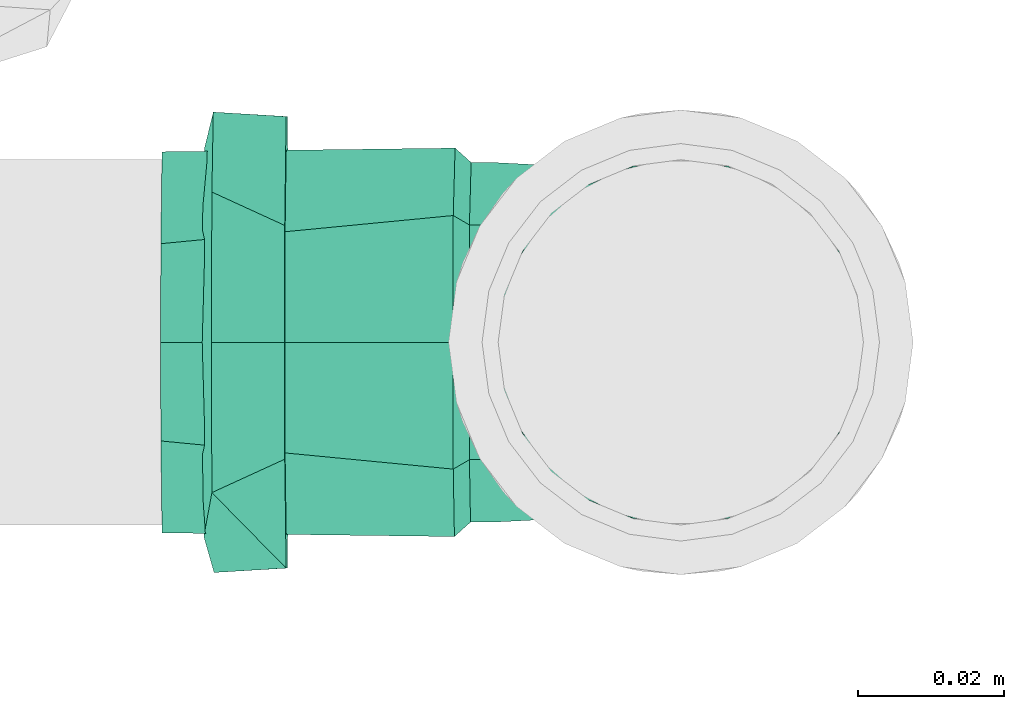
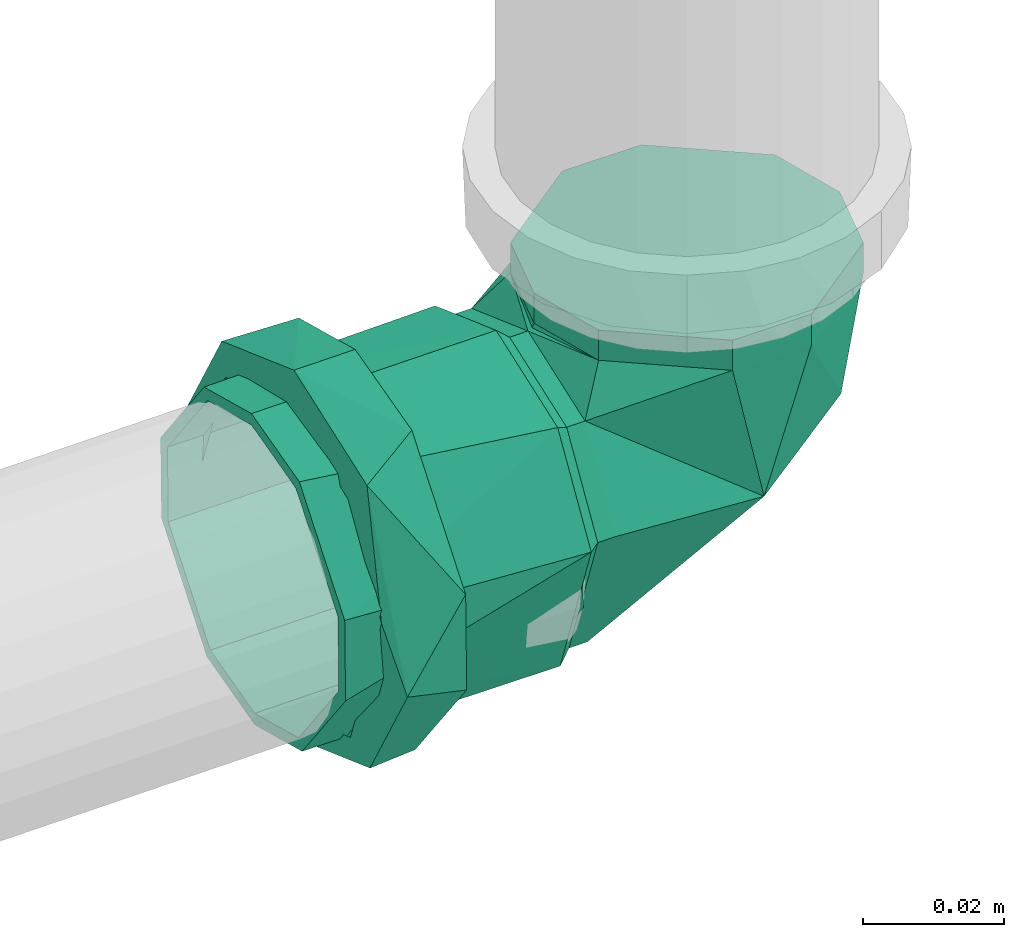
# One storey, part 140 of 589: 1 flow fitting.
"""IFC2X3 building model written with IfcOpenShell, lengths in millimetres."""

import ifcopenshell
import ifcopenshell.guid

model = None  # the IFC model being written
_history = None  # IfcOwnerHistory: only IFC2X3 demands one
_inside = {}  # id of a spatial element -> (the spatial element, [elements in it])
_under = {}  # id of a project, library or spatial element -> (it, [spatial elements below it])
_declared = {}  # id of a project -> (the project, [libraries it declares])
_typed = {}  # id of a type object -> (the type object, [elements of that type])
_made_of = {}  # id of a material, layer set ... -> (it, [elements and type objects made of it])


def new_model(schema):
    """Start an empty IFC model of exactly this schema.

    Asked for "IFC4X3", IfcOpenShell would pick the latest addendum, in which some entities
    have other attributes; the version numbers below select the first issue.
    IFC2X3 requires an IfcOwnerHistory on every rooted entity: one is made here for all.
    """
    global model, _history
    if schema == "IFC4X3":
        model = ifcopenshell.file(schema_version=(4, 3, 0, 0))
    else:
        model = ifcopenshell.file(schema=schema)
    _inside.clear()
    _under.clear()
    _declared.clear()
    _typed.clear()
    _made_of.clear()
    _history = None
    if model.schema == "IFC2X3":
        org = make("IfcOrganization", Name="unknown")
        user = make(
            "IfcPersonAndOrganization",
            ThePerson=make("IfcPerson", FamilyName="unknown"),
            TheOrganization=org,
        )
        app = make(
            "IfcApplication",
            ApplicationDeveloper=org,
            Version="unknown",
            ApplicationFullName="unknown",
            ApplicationIdentifier="unknown",
        )
        _history = make(
            "IfcOwnerHistory",
            OwningUser=user,
            OwningApplication=app,
            ChangeAction="ADDED",
            CreationDate=0,
        )
    return model


def make(cls, **values):
    """One entity of the class cls with the attributes given. An attribute that is None is left unset."""
    return model.create_entity(
        cls, **{name: value for name, value in values.items() if value is not None}
    )


def entity(cls, *values):
    """Any entity or typed value of the class cls, its attributes in the order of the schema. None: left unset."""
    e = model.create_entity(cls)
    for i, value in enumerate(values):
        if value is not None:
            e[i] = value
    return e


def rooted(cls, **values):
    """An entity with a GlobalId (a new one), such as an element, a storey or a relation."""
    return make(cls, GlobalId=ifcopenshell.guid.new(), OwnerHistory=_history, **values)


def si_unit(unit_type, name, prefix=None):
    """IfcSIUnit, for example si_unit("LENGTHUNIT", "METRE", prefix="MILLI")."""
    return make("IfcSIUnit", UnitType=unit_type, Prefix=prefix, Name=name)


def converted_unit(unit_type, name, factor, base, dimensions=None, offset=None):
    """IfcConversionBasedUnit, such as the inch: factor (a typed value) times the base unit."""
    return make(
        "IfcConversionBasedUnit"
        if offset is None
        else "IfcConversionBasedUnitWithOffset",
        ConversionOffset=offset,
        Dimensions=None
        if dimensions is None
        else entity("IfcDimensionalExponents", *dimensions),
        UnitType=unit_type,
        Name=name,
        ConversionFactor=make(
            "IfcMeasureWithUnit", ValueComponent=factor, UnitComponent=base
        ),
    )


def derived_unit(unit_type, elements):
    """IfcDerivedUnit: a product of units, each with its exponent."""
    return make(
        "IfcDerivedUnit",
        Elements=[
            make("IfcDerivedUnitElement", Unit=unit, Exponent=power)
            for unit, power in elements
        ],
        UnitType=unit_type,
    )


def assignment(units):
    """IfcUnitAssignment: the units of a project."""
    return None if units is None else make("IfcUnitAssignment", Units=units)


def point(xyz):
    """IfcCartesianPoint."""
    return None if xyz is None else make("IfcCartesianPoint", Coordinates=xyz)


def direction(xyz):
    """IfcDirection."""
    return None if xyz is None else make("IfcDirection", DirectionRatios=xyz)


def frame(location, z_axis=None, x_axis=None):
    """IfcAxis2Placement3D, a coordinate frame: its origin and axes. An axis left out is left unset."""
    return make(
        "IfcAxis2Placement3D",
        Location=point(location),
        Axis=direction(z_axis),
        RefDirection=direction(x_axis),
    )


def origin():
    """The frame at (0, 0, 0) with its axes left unset."""
    return frame((0.0, 0.0, 0.0))


def place(relative_to, where):
    """IfcLocalPlacement: puts the frame where relative to a parent placement (None: the world)."""
    return make(
        "IfcLocalPlacement", PlacementRelTo=relative_to, RelativePlacement=where
    )


def context(
    kind, dimensions, precision=None, world=None, true_north=None, identifier=None
):
    """IfcGeometricRepresentationContext, for example the 3D "Model" context."""
    return make(
        "IfcGeometricRepresentationContext",
        ContextIdentifier=identifier,
        ContextType=kind,
        CoordinateSpaceDimension=dimensions,
        Precision=precision,
        WorldCoordinateSystem=world,
        TrueNorth=true_north,
    )


def subcontext(parent, identifier, kind, view, scale=None):
    """IfcGeometricRepresentationSubContext, for example "Body" below "Model"."""
    return make(
        "IfcGeometricRepresentationSubContext",
        ContextIdentifier=identifier,
        ContextType=kind,
        ParentContext=parent,
        TargetScale=scale,
        TargetView=view,
    )


def project(units=None, contexts=None):
    """IfcProject with its units and contexts."""
    return rooted(
        "IfcProject",
        Name="project",
        RepresentationContexts=contexts,
        UnitsInContext=assignment(units),
    )


def spatial(cls, under=None, at=None, **own):
    """A site, building, storey or space (cls), placed at a placement, below another one or the project."""
    s = rooted(cls, ObjectPlacement=at, **own)
    if under is not None:
        _under.setdefault(under.id(), (under, []))[1].append(s)
    return s


def faces_of(points, faces, orient=None, outer=None):
    """IfcFace entities. A face is a list of loops; a loop is a list of indices into points, from 0.

    orient and outer hold one flag for each loop. By default every Orientation is true, the
    first loop of a face is its IfcFaceOuterBound and the others are IfcFaceBound.
    """
    made = []
    for i, loops in enumerate(faces):
        bounds = []
        for j, loop in enumerate(loops):
            is_outer = j == 0 if outer is None else outer[i][j]
            bounds.append(
                make(
                    "IfcFaceOuterBound" if is_outer else "IfcFaceBound",
                    Bound=make("IfcPolyLoop", Polygon=[points[k] for k in loop]),
                    Orientation=True if orient is None else orient[i][j],
                )
            )
        made.append(make("IfcFace", Bounds=bounds))
    return made


def faceted_brep(points, faces, orient=None, outer=None, voids=None):
    """IfcFacetedBrep: a solid bounded by flat faces; with voids (closed shells), ...WithVoids."""
    shared = [point(p) for p in points]
    hull = make("IfcClosedShell", CfsFaces=faces_of(shared, faces, orient, outer))
    if voids is None:
        return make("IfcFacetedBrep", Outer=hull)
    return make(
        "IfcFacetedBrepWithVoids",
        Outer=hull,
        Voids=[
            make(cls, CfsFaces=faces_of(shared, fs, o, b)) for cls, fs, o, b in voids
        ],
    )


def shape(context_of_items, identifier, shape_type, items):
    """IfcShapeRepresentation: the items that make up one representation, for example the "Body"."""
    return make(
        "IfcShapeRepresentation",
        ContextOfItems=context_of_items,
        RepresentationIdentifier=identifier,
        RepresentationType=shape_type,
        Items=items,
    )


def source(mapping_origin, context_of_items, identifier, shape_type, items):
    """IfcRepresentationMap: a shape defined once, which mapped items show again and again."""
    return make(
        "IfcRepresentationMap",
        MappingOrigin=mapping_origin,
        MappedRepresentation=shape(context_of_items, identifier, shape_type, items),
    )


def transform(
    local_origin,
    x_axis=None,
    y_axis=None,
    z_axis=None,
    scale=None,
    scale2=None,
    scale3=None,
    uniform=True,
):
    """IfcCartesianTransformationOperator3D, or its non-uniform kind. x_axis, y_axis, z_axis: its Axis1, 2, 3."""
    if uniform:
        return make(
            "IfcCartesianTransformationOperator3D",
            Axis1=direction(x_axis),
            Axis2=direction(y_axis),
            LocalOrigin=point(local_origin),
            Scale=scale,
            Axis3=direction(z_axis),
        )
    return make(
        "IfcCartesianTransformationOperator3DnonUniform",
        Axis1=direction(x_axis),
        Axis2=direction(y_axis),
        LocalOrigin=point(local_origin),
        Scale=scale,
        Axis3=direction(z_axis),
        Scale2=scale2,
        Scale3=scale3,
    )


def mapped(mapping_source, mapping_target):
    """IfcMappedItem: shows the shape of a source again, moved by a transform."""
    return make(
        "IfcMappedItem", MappingSource=mapping_source, MappingTarget=mapping_target
    )


def material(Name=None, Category=None):
    """IfcMaterial."""
    return make("IfcMaterial", Name=Name, Category=Category)


def made_of(thing, what):
    """Note that an element or type object is made of a material, layer set ...; save() writes the relation."""
    if what is not None:
        _made_of.setdefault(what.id(), (what, []))[1].append(thing)
    return thing


def type_object(cls, material=None, **own):
    """A type object (cls), such as IfcWallType, which elements share."""
    return made_of(rooted(cls, **own), material)


def type_shapes(of_type, sources):
    """Give a type object the sources (RepresentationMaps) that its elements show as mapped items."""
    of_type.RepresentationMaps = sources


def element(
    cls,
    number,
    at=None,
    inside=None,
    cuts=None,
    type_object=None,
    material=None,
    context=None,
    identifier="Body",
    shape_type=None,
    held_by="IfcProductDefinitionShape",
    body=None,
    shapes=None,
    **own,
):
    """One element of the class cls, such as IfcWall. Its Tag is "e" and its number.

    at: its placement. inside: the storey or other place that contains it. cuts: it is an
    opening in that element (IfcRelVoidsElement). A single representation is given by context,
    identifier, shape_type and body (its items); several are given by shapes. held_by: the class
    of the entity that holds the representations. save() writes the other relations.
    """
    e = rooted(cls, Tag="e%d" % number, ObjectPlacement=at, **own)
    if body is not None:
        shapes = [shape(context, identifier, shape_type, body)]
    if shapes is not None:
        e.Representation = make(held_by, Representations=shapes)
    if inside is not None:
        _inside.setdefault(inside.id(), (inside, []))[1].append(e)
    if cuts is not None:
        rooted(
            "IfcRelVoidsElement", RelatingBuildingElement=cuts, RelatedOpeningElement=e
        )
    if type_object is not None:
        _typed.setdefault(type_object.id(), (type_object, []))[1].append(e)
    return made_of(e, material)


def aggregate(whole, parts):
    """IfcRelAggregates: a whole, such as a stair, and the parts it consists of."""
    return rooted("IfcRelAggregates", RelatingObject=whole, RelatedObjects=parts)


def save(model, path):
    """Write the relations noted so far, then the file.

    IfcRelAggregates (storeys below a building ...), IfcRelContainedInSpatialStructure (elements
    in a storey), IfcRelDefinesByType, IfcRelAssociatesMaterial and IfcRelDeclares: one each for
    every whole, place, type object, material and project.
    """
    for whole, parts in _under.values():
        aggregate(whole, parts)
    for where, things in _inside.values():
        rooted(
            "IfcRelContainedInSpatialStructure",
            RelatedElements=things,
            RelatingStructure=where,
        )
    for kind, things in _typed.values():
        rooted("IfcRelDefinesByType", RelatedObjects=things, RelatingType=kind)
    for what, things in _made_of.values():
        rooted("IfcRelAssociatesMaterial", RelatedObjects=things, RelatingMaterial=what)
    for by, libraries in _declared.values():
        rooted("IfcRelDeclares", RelatingContext=by, RelatedDefinitions=libraries)
    model.write(path)


model = new_model("IFC2X3")

# Units and contexts
model_context = context("Model", 3, precision=0.01, world=origin(), true_north=direction((6.123031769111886e-17, 1.0)))
body_context = subcontext(model_context, "Body", "Model", "MODEL_VIEW")
ifc_project = project(units=[si_unit("LENGTHUNIT", "METRE", prefix="MILLI"), si_unit("AREAUNIT", "SQUARE_METRE"), si_unit("VOLUMEUNIT", "CUBIC_METRE"), converted_unit("PLANEANGLEUNIT", "DEGREE", entity("IfcRatioMeasure", 0.017453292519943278), si_unit("PLANEANGLEUNIT", "RADIAN"), dimensions=[0, 0, 0, 0, 0, 0, 0]), si_unit("MASSUNIT", "GRAM", prefix="KILO"), derived_unit("MASSDENSITYUNIT", [(si_unit("MASSUNIT", "GRAM", prefix="KILO"), 1), (si_unit("LENGTHUNIT", "METRE"), -3)]), derived_unit("IONCONCENTRATIONUNIT", [(si_unit("MASSUNIT", "GRAM", prefix="KILO"), 1), (si_unit("LENGTHUNIT", "METRE"), -3)]), derived_unit("MOMENTOFINERTIAUNIT", [(si_unit("LENGTHUNIT", "METRE"), 4)]), si_unit("TIMEUNIT", "SECOND"), si_unit("FREQUENCYUNIT", "HERTZ"), si_unit("THERMODYNAMICTEMPERATUREUNIT", "DEGREE_CELSIUS"), derived_unit("THERMALTRANSMITTANCEUNIT", [(si_unit("MASSUNIT", "GRAM", prefix="KILO"), 1), (si_unit("THERMODYNAMICTEMPERATUREUNIT", "KELVIN"), -1), (si_unit("TIMEUNIT", "SECOND"), -3)]), derived_unit("THERMALCONDUCTANCEUNIT", [(si_unit("MASSUNIT", "GRAM", prefix="KILO"), 1), (si_unit("THERMODYNAMICTEMPERATUREUNIT", "KELVIN"), -1), (si_unit("TIMEUNIT", "SECOND"), -3), (si_unit("LENGTHUNIT", "METRE"), 1)]), derived_unit("VOLUMETRICFLOWRATEUNIT", [(si_unit("LENGTHUNIT", "METRE"), 3), (si_unit("TIMEUNIT", "SECOND"), -1)]), derived_unit("MASSFLOWRATEUNIT", [(si_unit("MASSUNIT", "GRAM", prefix="KILO"), 1), (si_unit("TIMEUNIT", "SECOND"), -1)]), derived_unit("ROTATIONALFREQUENCYUNIT", [(si_unit("TIMEUNIT", "SECOND"), -1)]), si_unit("ELECTRICCURRENTUNIT", "AMPERE"), si_unit("ELECTRICVOLTAGEUNIT", "VOLT"), si_unit("POWERUNIT", "WATT"), si_unit("FORCEUNIT", "NEWTON", prefix="KILO"), si_unit("ILLUMINANCEUNIT", "LUX"), si_unit("LUMINOUSFLUXUNIT", "LUMEN"), si_unit("LUMINOUSINTENSITYUNIT", "CANDELA"), derived_unit("USERDEFINED", [(si_unit("MASSUNIT", "GRAM", prefix="KILO"), -1), (si_unit("LENGTHUNIT", "METRE"), -2), (si_unit("TIMEUNIT", "SECOND"), 3), (si_unit("LUMINOUSFLUXUNIT", "LUMEN"), 1)]), derived_unit("USERDEFINED", [(si_unit("MASSUNIT", "GRAM", prefix="KILO"), 1), (si_unit("TIMEUNIT", "SECOND"), -3), (si_unit("LENGTHUNIT", "METRE"), 3), (si_unit("ELECTRICCURRENTUNIT", "AMPERE"), -2)]), derived_unit("SOUNDPOWERUNIT", [(si_unit("MASSUNIT", "GRAM", prefix="KILO"), 1), (si_unit("TIMEUNIT", "SECOND"), -3), (si_unit("LENGTHUNIT", "METRE"), 2)]), derived_unit("SOUNDPRESSUREUNIT", [(si_unit("MASSUNIT", "GRAM", prefix="KILO"), 1), (si_unit("LENGTHUNIT", "METRE"), -1), (si_unit("TIMEUNIT", "SECOND"), -2)]), derived_unit("LINEARVELOCITYUNIT", [(si_unit("LENGTHUNIT", "METRE"), 1), (si_unit("TIMEUNIT", "SECOND"), -1)]), si_unit("PRESSUREUNIT", "PASCAL"), derived_unit("USERDEFINED", [(si_unit("MASSUNIT", "GRAM", prefix="KILO"), 1), (si_unit("LENGTHUNIT", "METRE"), -2), (si_unit("TIMEUNIT", "SECOND"), -2)]), derived_unit("LINEARFORCEUNIT", [(si_unit("MASSUNIT", "GRAM", prefix="KILO"), 1), (si_unit("TIMEUNIT", "SECOND"), -2)]), derived_unit("PLANARFORCEUNIT", [(si_unit("MASSUNIT", "GRAM", prefix="KILO"), 1), (si_unit("LENGTHUNIT", "METRE"), -1), (si_unit("TIMEUNIT", "SECOND"), -2)]), derived_unit("SPECIFICHEATCAPACITYUNIT", [(si_unit("THERMODYNAMICTEMPERATUREUNIT", "KELVIN"), -1), (si_unit("LENGTHUNIT", "METRE"), 2), (si_unit("TIMEUNIT", "SECOND"), -2)]), derived_unit("HEATINGVALUEUNIT", [(si_unit("LENGTHUNIT", "METRE"), 2), (si_unit("TIMEUNIT", "SECOND"), -2)]), derived_unit("VAPORPERMEABILITYUNIT", [(si_unit("LENGTHUNIT", "METRE"), -1), (si_unit("TIMEUNIT", "SECOND"), 1)]), derived_unit("DYNAMICVISCOSITYUNIT", [(si_unit("MASSUNIT", "GRAM", prefix="KILO"), 1), (si_unit("TIMEUNIT", "SECOND"), -1), (si_unit("LENGTHUNIT", "METRE"), -1)]), derived_unit("THERMALEXPANSIONCOEFFICIENTUNIT", [(si_unit("THERMODYNAMICTEMPERATUREUNIT", "KELVIN"), -1)]), derived_unit("MODULUSOFELASTICITYUNIT", [(si_unit("MASSUNIT", "GRAM", prefix="KILO"), 1), (si_unit("LENGTHUNIT", "METRE"), -1), (si_unit("TIMEUNIT", "SECOND"), -2)]), derived_unit("ISOTHERMALMOISTURECAPACITYUNIT", [(si_unit("LENGTHUNIT", "METRE"), 3), (si_unit("MASSUNIT", "GRAM", prefix="KILO"), -1)]), derived_unit("MOISTUREDIFFUSIVITYUNIT", [(si_unit("TIMEUNIT", "SECOND"), -1), (si_unit("LENGTHUNIT", "METRE"), 2)])], contexts=[model_context])

# Site, building, storey
site_placement = place(None, origin())
site = spatial("IfcSite", under=ifc_project, at=site_placement, Name="Default", CompositionType="ELEMENT")
building_placement = place(site_placement, origin())
building = spatial("IfcBuilding", under=site, at=building_placement, CompositionType="ELEMENT")
storey_placement = place(building_placement, frame((0.0, 0.0, 100.0)))
storey = spatial("IfcBuildingStorey", under=building, at=storey_placement, Name="TÉRREO", CompositionType="ELEMENT", Elevation=100.0)

# Flow fitting
ifc_material = material(Name="PVC Série Normal")
pipe_fitting_type = type_object("IfcPipeFittingType", Name="PVC Esgoto_Joelho 45_90_Rodrigo MEP:a. Série Normal", PredefinedType="NOTDEFINED", material=ifc_material)
shared_shape = source(origin(), body_context, "Body", "Brep", [
    faceted_brep([(-6.212752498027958, 25.804714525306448, 24.14814565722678), (-21.392152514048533, 25.95650852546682, 12.500000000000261), (-24.741349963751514, 25.990000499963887, 0.0), (-21.392152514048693, 25.956508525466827, -12.499999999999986), (-6.21275249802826, 25.804714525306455, -24.1481456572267), (6.727552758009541, 25.675311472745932, -24.14814565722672), (21.906952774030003, 25.52351747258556, -12.500000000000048), (25.256150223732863, 25.490025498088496, 0.0), (21.906952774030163, 25.52351747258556, 12.499999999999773), (6.7275527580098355, 25.675311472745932, 24.148145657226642), (25.308147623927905, 30.689765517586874, 0.0), (21.958950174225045, 30.72325749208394, -12.500000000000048), (6.779550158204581, 30.87505149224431, -24.14814565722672), (-6.160755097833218, 31.004454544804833, -24.1481456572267), (-21.34015511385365, 31.156248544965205, -12.499999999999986), (-24.689352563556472, 31.18974051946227, 0.0), (-21.340155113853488, 31.1562485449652, 12.500000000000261), (-6.160755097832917, 31.00445454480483, 24.14814565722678), (6.779550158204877, 30.87505149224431, 24.148145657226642), (21.958950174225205, 30.72325749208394, 12.499999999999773)], [[[0, 1, 2, 3, 4, 5, 6, 7, 8, 9]], [[10, 11, 12, 13, 14, 15, 16, 17, 18, 19]], [[7, 10, 19, 8]], [[8, 19, 18, 9]], [[18, 17, 0, 9]], [[0, 17, 16, 1]], [[1, 16, 15, 2]], [[2, 15, 14, 3]], [[3, 14, 13, 4]], [[13, 12, 5, 4]], [[5, 12, 11, 6]], [[6, 11, 10, 7]]]),
    faceted_brep([(-70.94129996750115, -6.988114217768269, -26.07999730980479), (-70.94129996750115, -6.47047612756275, -24.14814565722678), (-70.94129996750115, 6.4704761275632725, -24.148145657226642), (-70.94129996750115, -23.382685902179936, -13.499999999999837), (-70.94129996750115, 6.988114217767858, -26.0799973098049), (-70.94129996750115, -21.650635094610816, -12.500000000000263), (-70.94129996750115, -25.0, 0.0), (-70.94129996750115, -27.0, 0.0), (-70.94129996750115, -21.650635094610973, 12.499999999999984), (-70.94129996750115, -23.382685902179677, 13.500000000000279), (-70.94129996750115, -6.470476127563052, 24.1481456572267), (-70.94129996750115, -6.98811421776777, 26.079997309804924), (-70.94129996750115, 6.470476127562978, 24.14814565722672), (-70.94129996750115, 6.988114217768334, 26.07999730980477), (-70.94129996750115, 21.650635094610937, 12.500000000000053), (-70.94129996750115, 23.38268590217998, 13.499999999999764), (-70.94129996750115, 27.0, 0.0), (-70.94129996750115, 25.0, 0.0), (-70.94129996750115, 23.382685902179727, -13.500000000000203), (-70.94129996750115, 21.6506350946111, -12.499999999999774), (-30.94129996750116, 21.650635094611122, -12.499999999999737), (-30.94129996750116, 25.0, 0.0), (-30.94129996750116, 6.4704761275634, -24.148145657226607), (-30.94129996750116, -6.470476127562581, -24.148145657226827), (-30.94129996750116, -21.650635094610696, -12.500000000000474), (-30.94129996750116, -25.0, 0.0), (-30.94129996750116, -21.65063509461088, 12.500000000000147), (-30.94129996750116, -6.470476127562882, 24.14814565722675), (-30.94129996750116, 6.470476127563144, 24.148145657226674), (-30.94129996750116, 21.650635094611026, 12.499999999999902), (-30.94129996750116, 27.0, 0.0), (-30.941299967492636, 20.682232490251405, 17.356418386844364), (-30.94129996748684, 4.685536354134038, 26.59033187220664), (-30.94129996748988, -20.686585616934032, 17.35122979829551), (-30.94129996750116, -27.0, 0.0), (-30.941299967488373, -8.000524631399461, 21.970780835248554), (-30.94129996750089, -20.686585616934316, -17.35122979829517), (-30.9412999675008, -4.6922062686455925, -26.589155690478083), (-30.94129996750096, 20.682232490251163, -17.356418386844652), (-30.94129996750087, 7.995013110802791, -21.97278703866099), (-28.74129996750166, -4.338459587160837, -24.62067765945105), (-28.741299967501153, 25.0, 0.0), (-28.741299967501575, 19.154245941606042, -16.065953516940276), (-28.741299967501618, 7.407893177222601, -20.34331558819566), (-28.741299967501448, -19.15021526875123, -16.070757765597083), (-28.741299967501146, -25.0, 0.0), (-28.741299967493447, -19.150215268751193, 16.07075776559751), (-28.741299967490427, -7.402789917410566, 20.345173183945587), (-28.74129996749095, 19.15424594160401, 16.065953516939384), (-28.741299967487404, 4.344635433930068, 24.619588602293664), (-25.741299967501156, 25.0, 0.0), (-25.741299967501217, 19.151286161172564, 16.069481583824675), (-25.741299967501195, 4.341396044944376, 24.62016003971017), (-25.741299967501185, -7.404832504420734, 20.344954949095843), (-25.741299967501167, -19.15106105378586, 16.069749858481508), (-25.741299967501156, -25.0, 0.0), (-25.741299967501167, -19.15106105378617, -16.069749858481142), (-25.741299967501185, -4.341051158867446, -24.62022085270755), (-25.741299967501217, 19.15128616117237, -16.069481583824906), (-25.7412999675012, 7.405117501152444, -20.344851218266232), (-6.212752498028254, 25.80471452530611, -24.1481456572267), (-21.39215251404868, 25.95650852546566, -12.499999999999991), (-24.74134996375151, 25.990000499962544, 0.0), (-21.3921525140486, 25.956508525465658, 12.500000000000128), (-6.2127524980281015, 25.80471452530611, 24.14814565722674), (6.7275527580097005, 25.67531147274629, 24.148145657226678), (21.906952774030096, 25.52351747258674, 12.499999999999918), (25.256150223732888, 25.490025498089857, 0.0), (21.90695277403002, 25.523517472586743, -12.500000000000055), (6.727552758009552, 25.67531147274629, -24.14814565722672), (-0.83580225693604, 1.5246716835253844, 23.354962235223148), (-3.2027279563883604, -15.730161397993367, 0.0), (10.140389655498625, -10.242300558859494, 0.0), (16.135012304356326, 8.632944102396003, 15.848254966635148), (-25.03773742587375, 25.289366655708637, 0.0), (15.761400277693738, 3.0452732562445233, 0.0), (16.135011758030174, 8.632944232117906, -15.848255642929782), (-0.8751695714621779, 1.433288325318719, -23.341145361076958)], [[[0, 1, 2]], [[1, 0, 3]], [[2, 4, 0]], [[3, 5, 1]], [[3, 6, 5]], [[6, 3, 7]], [[8, 6, 7]], [[8, 7, 9]], [[9, 10, 8]], [[9, 11, 10]], [[10, 11, 12]], [[13, 12, 11]], [[13, 14, 12]], [[14, 13, 15]], [[16, 14, 15]], [[17, 14, 16]], [[18, 17, 16]], [[18, 19, 17]], [[19, 18, 4]], [[4, 2, 19]], [[20, 21, 17, 19]], [[22, 20, 19, 2]], [[2, 1, 23, 22]], [[24, 23, 1, 5]], [[25, 24, 5, 6]], [[26, 25, 6, 8]], [[27, 26, 8, 10]], [[10, 12, 28, 27]], [[29, 28, 12, 14]], [[21, 29, 14, 17]], [[16, 15, 30]], [[15, 31, 30]], [[31, 15, 13]], [[31, 13, 32]], [[33, 11, 9]], [[34, 9, 7]], [[11, 33, 35, 32]], [[33, 9, 34]], [[11, 32, 13]], [[7, 3, 34]], [[3, 36, 34]], [[36, 3, 0]], [[36, 0, 37]], [[38, 4, 18]], [[30, 18, 16]], [[4, 38, 39, 37]], [[38, 18, 30]], [[4, 37, 0]], [[28, 29, 21, 20, 22, 23, 24, 25, 26, 27]], [[39, 40, 37]], [[41, 42, 30]], [[30, 42, 38]], [[38, 43, 39]], [[44, 45, 36]], [[38, 42, 43]], [[36, 37, 44]], [[34, 36, 45]], [[40, 39, 43]], [[44, 37, 40]], [[45, 46, 33]], [[33, 34, 45]], [[46, 35, 33]], [[46, 47, 35]], [[47, 32, 35]], [[48, 41, 30]], [[48, 31, 49]], [[31, 48, 30]], [[32, 47, 49]], [[49, 31, 32]], [[41, 48, 50]], [[48, 51, 50]], [[51, 48, 49]], [[51, 49, 52]], [[52, 47, 53]], [[46, 54, 53]], [[46, 45, 54]], [[49, 47, 52]], [[54, 45, 55]], [[47, 46, 53]], [[45, 44, 56]], [[45, 56, 55]], [[56, 44, 57]], [[58, 59, 43]], [[44, 40, 57]], [[40, 59, 57]], [[58, 43, 42]], [[42, 50, 58]], [[50, 42, 41]], [[59, 40, 43]], [[60, 61, 62, 63, 64, 65, 66, 67, 68, 69]], [[52, 70, 51]], [[54, 71, 70]], [[70, 52, 53, 54]], [[72, 73, 70]], [[50, 63, 74]], [[51, 63, 50]], [[54, 55, 71]], [[72, 70, 71]], [[75, 67, 66]], [[65, 70, 73]], [[73, 75, 66]], [[74, 63, 62]], [[73, 66, 65]], [[63, 51, 64]], [[70, 64, 51]], [[73, 72, 75]], [[65, 64, 70]], [[72, 76, 75]], [[71, 55, 56]], [[77, 58, 60]], [[77, 57, 59, 58]], [[77, 71, 56]], [[56, 57, 77]], [[77, 69, 76]], [[58, 50, 61]], [[74, 62, 61]], [[71, 77, 72]], [[61, 60, 58]], [[68, 75, 76]], [[68, 67, 75]], [[72, 77, 76]], [[76, 69, 68]], [[60, 69, 77]], [[61, 50, 74]]]),
    faceted_brep([(-53.94129996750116, 6.9881142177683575, -26.07999730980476), (-53.94129996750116, -6.988114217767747, -26.079997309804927), (-53.94129996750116, -8.282209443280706, -30.909626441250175), (-53.94129996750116, 8.28220944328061, -30.9096264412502), (-53.94129996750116, 23.38268590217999, -13.499999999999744), (-53.94129996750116, -27.712812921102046, -16.0), (-53.94129996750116, -23.38268590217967, -13.500000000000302), (-53.94129996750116, -27.0, 0.0), (-53.94129996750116, -32.0, 0.0), (-53.94129996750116, -23.382685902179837, 13.500000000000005), (-53.94129996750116, -27.712812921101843, 16.0), (-53.94129996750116, -6.988114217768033, 26.07999730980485), (-53.94129996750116, -8.28220944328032, 30.909626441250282), (-53.94129996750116, 6.988114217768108, 26.07999730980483), (-53.94129996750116, 8.282209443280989, 30.909626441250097), (-53.94129996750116, 23.382685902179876, 13.499999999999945), (-53.94129996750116, 27.712812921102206, 16.0), (-53.94129996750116, 32.0, 0.0), (-53.94129996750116, 27.0, 0.0), (-53.94129996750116, 27.712812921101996, -16.0), (-63.94129996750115, 27.0, 0.0), (-65.24129996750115, 27.0, 0.0), (-63.94129996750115, 25.191342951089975, -6.750000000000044), (-63.94129996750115, 23.38268590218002, -13.499999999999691), (-63.94129996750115, 19.284042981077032, -16.644999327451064), (-63.94129996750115, 15.185400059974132, -19.789998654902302), (-63.94129996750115, 11.086757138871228, -22.934997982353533), (-63.94129996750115, 6.988114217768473, -26.07999730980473), (-63.94129996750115, 0.0, -26.079997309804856), (-63.94129996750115, -6.988114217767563, -26.079997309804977), (-63.94129996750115, -11.086757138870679, -22.934997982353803), (-63.94129996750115, -15.185400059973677, -19.789998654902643), (-63.94129996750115, -19.284042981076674, -16.644999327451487), (-63.94129996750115, -23.382685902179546, -13.50000000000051), (-63.94129996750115, -25.191342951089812, -6.750000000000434), (-65.24129996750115, -27.0, 0.0), (-63.94129996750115, -27.0, 0.0), (-63.94129996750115, -25.19134295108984, 6.750000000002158), (-63.94129996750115, -23.382685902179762, 13.500000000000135), (-63.94129996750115, -19.284042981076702, 16.64499932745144), (-63.94129996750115, -15.185400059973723, 19.7899986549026), (-63.94129996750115, -11.086757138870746, 22.934997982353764), (-63.94129996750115, -6.988114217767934, 26.079997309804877), (-63.94129996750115, 0.0, 26.079997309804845), (-63.94129996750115, 6.988114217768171, 26.079997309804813), (-63.94129996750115, 11.086757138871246, 22.93499798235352), (-63.94129996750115, 15.185400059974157, 19.789998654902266), (-63.94129996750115, 19.284042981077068, 16.644999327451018), (-63.94129996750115, 23.382685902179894, 13.499999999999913), (-63.94129996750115, 25.19134295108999, 6.74999999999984), (-63.94129996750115, 32.0, 0.0), (-63.94129996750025, 24.512275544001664, 20.570569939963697), (-63.94129996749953, -5.561133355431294, 31.51307341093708), (-63.94129996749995, -24.51743480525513, 20.56442050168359), (-63.94129996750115, -32.0, 0.0), (-63.9412999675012, -24.51743480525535, -20.564420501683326), (-63.941299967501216, 5.553228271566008, -31.514467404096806), (-63.94129996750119, 24.512275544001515, -20.570569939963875), (-65.2412999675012, -23.84329280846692, -8.675614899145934), (-65.24129996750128, -20.686585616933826, -17.351229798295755), (-65.24129996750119, 23.841116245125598, -8.678209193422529), (-65.24129996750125, 20.6822324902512, -17.356418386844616), (-65.24129996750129, -12.689395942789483, -21.970192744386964), (-65.24129996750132, -4.692206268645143, -26.589155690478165), (-65.24129996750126, 14.338622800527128, -19.664602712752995), (-65.24129996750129, 1.6514034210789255, -24.280971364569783), (-65.24129996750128, 7.995013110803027, -21.97278703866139), (-65.24129996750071, 23.84111624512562, 8.678209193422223), (-65.24129996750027, 20.68223249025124, 17.35641838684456), (-65.24129996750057, -23.843292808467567, 8.675614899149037), (-65.24129996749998, -20.68658561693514, 17.351229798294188), (-65.24129996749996, 12.683884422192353, 21.973375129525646), (-65.24129996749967, 4.685536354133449, 26.590331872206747), (-65.2412999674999, -14.343555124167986, 19.66100531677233), (-65.24129996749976, -1.6574941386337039, 24.280556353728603), (-65.24129996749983, -8.000524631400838, 21.97078083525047)], [[[0, 1, 2]], [[2, 3, 0]], [[4, 0, 3]], [[5, 2, 1]], [[1, 6, 5]], [[6, 7, 5]], [[8, 5, 7]], [[8, 7, 9]], [[10, 8, 9]], [[9, 11, 10]], [[11, 12, 10]], [[13, 12, 11]], [[12, 13, 14]], [[13, 15, 14]], [[16, 14, 15]], [[16, 15, 17]], [[17, 15, 18]], [[18, 4, 19]], [[17, 18, 19]], [[3, 19, 4]], [[4, 18, 20, 21, 22, 23]], [[0, 4, 23, 24, 25, 26, 27]], [[0, 27, 28, 29, 1]], [[6, 1, 29, 30, 31, 32, 33]], [[7, 6, 33, 34, 35, 36]], [[9, 7, 36, 35, 37, 38]], [[11, 9, 38, 39, 40, 41, 42]], [[11, 42, 43, 44, 13]], [[15, 13, 44, 45, 46, 47, 48]], [[18, 15, 48, 49, 21, 20]], [[50, 51, 16]], [[50, 16, 17]], [[16, 51, 14]], [[51, 52, 14]], [[12, 52, 53]], [[10, 53, 54]], [[53, 10, 12]], [[10, 54, 8]], [[52, 12, 14]], [[54, 55, 5]], [[54, 5, 8]], [[5, 55, 2]], [[55, 56, 2]], [[3, 56, 57]], [[19, 57, 50]], [[57, 19, 3]], [[19, 50, 17]], [[56, 3, 2]], [[58, 33, 59]], [[23, 60, 61]], [[32, 31, 59, 33]], [[30, 29, 62, 31]], [[24, 23, 61, 25]], [[29, 28, 63]], [[26, 25, 64]], [[65, 63, 28]], [[31, 62, 59]], [[63, 62, 29]], [[60, 22, 21]], [[34, 58, 35]], [[66, 26, 64]], [[28, 27, 65]], [[27, 66, 65]], [[27, 26, 66]], [[64, 25, 61]], [[34, 33, 58]], [[60, 23, 22]], [[67, 48, 68]], [[38, 69, 70]], [[47, 46, 68, 48]], [[45, 44, 71, 46]], [[39, 38, 70, 40]], [[44, 43, 72]], [[41, 40, 73]], [[74, 72, 43]], [[46, 71, 68]], [[72, 71, 44]], [[69, 37, 35]], [[49, 67, 21]], [[75, 41, 73]], [[43, 42, 74]], [[42, 75, 74]], [[42, 41, 75]], [[73, 40, 70]], [[49, 48, 67]], [[69, 38, 37]], [[54, 35, 58, 59, 55]], [[55, 59, 62, 63]], [[55, 63, 56]], [[57, 61, 60, 21, 50]], [[57, 56, 61]], [[56, 63, 65, 66, 64, 61]], [[50, 21, 67, 68, 51]], [[51, 68, 71, 72]], [[51, 72, 52]], [[53, 70, 69, 35, 54]], [[53, 52, 70]], [[52, 72, 74, 75, 73, 70]]]),
])
type_shapes(pipe_fitting_type, [shared_shape])
flow_fitting_placement = place(storey_placement, frame((9353.085385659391, -9894.030796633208, -75.20885980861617), z_axis=(0.0, -1.0, 0.0), x_axis=(0.9999500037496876, 0.0, 0.009999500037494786)))
element("IfcFlowFitting", 1, at=flow_fitting_placement, inside=storey, type_object=pipe_fitting_type, material=ifc_material, Name="PVC Esgoto_Joelho 45_90_Rodrigo MEP:a. Série Normal", ObjectType="PVC Esgoto_Joelho 45_90_Rodrigo MEP:a. Série Normal", context=body_context, shape_type="MappedRepresentation", body=[
    mapped(shared_shape, transform((0.0, 0.0, 0.0), scale=1.0)),
])

save(model, "model.ifc")
